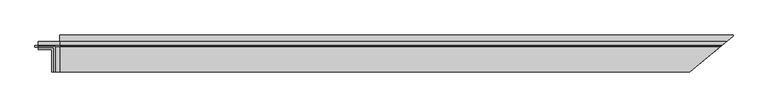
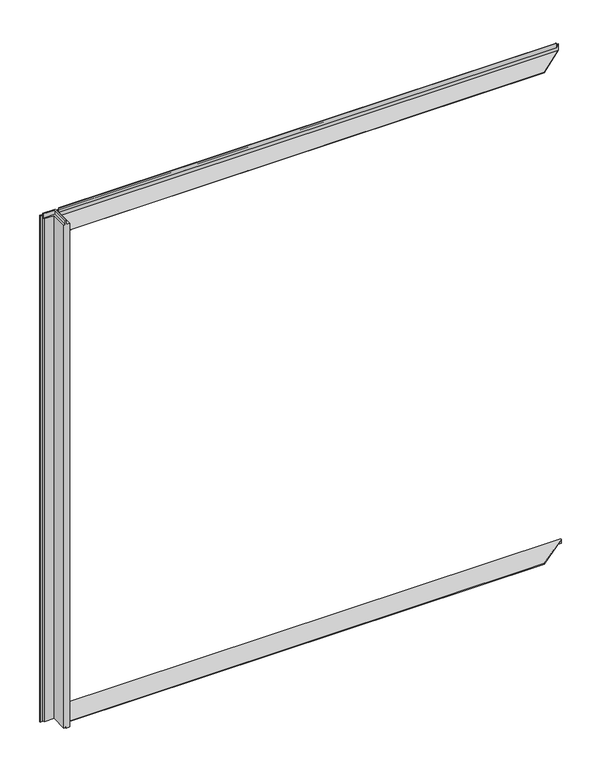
"""IFC4 building model written with IfcOpenShell, lengths in millimetres: plate geometry, Trimo_Qbiss Screen_Wall Opening Trims-HORIZONTAL : HR - B."""

from ifc_helpers import new_model, si_unit, frame, origin, origin_with_axes, place, context, project, spatial, polyline, outline, extrude, faceted_brep, source, transform, mapped, element, save


def plate_2372c1a4(model_context):
    return source(origin(), model_context, "Body", "SolidModel", [
        faceted_brep([(-1846.212234, 71.0, 4487.0), (-1846.212234, 100.0, 4487.0), (-1846.212234, 100.0, 0.0), (-1846.212234, 72.0, 0.0), (-1846.212234, 72.0, 15.5), (-1846.212234, 62.0, 15.5), (-1846.212234, 62.0, 7.0), (-1846.212234, 50.0, 7.0), (-1846.212234, 50.0, 4487.0), (-1846.212234, 63.0, 4487.0), (-1846.212234, 63.0, 4524.5), (-1846.212234, 71.0, 4524.5), (-1740.212234, 71.0, 4487.0), (-1740.212234, -92.0, 4487.0), (-1711.212234, -92.0, 4487.0), (-1711.212234, 100.0, 4487.0), (-1711.212234, 100.0, 0.0), (-1711.212234, -92.0, 0.0), (-1739.212234, -92.0, 0.0), (-1739.212234, 72.0, 0.0), (-1739.212234, 72.0, 15.5), (-1739.212234, -92.0, 15.5), (-1749.212234, -92.0, 15.5), (-1749.212234, 62.0, 15.5), (-1749.212234, 62.0, 7.0), (-1749.212234, -92.0, 7.0), (-1761.212234, -92.0, 7.0), (-1761.212234, 50.0, 7.0), (-1761.212234, 50.0, 4487.0), (-1761.212234, -92.0, 4487.0), (-1748.212234, -92.0, 4487.0), (-1748.212234, 63.0, 4487.0), (-1748.212234, 63.0, 4524.5), (-1748.212234, -92.0, 4524.5), (-1740.212234, -92.0, 4524.5), (-1740.212234, 71.0, 4524.5)], [[[0, 1, 2, 3, 4, 5, 6, 7, 8, 9, 10, 11]], [[1, 0, 12, 13, 14, 15]], [[2, 1, 15, 16]], [[3, 2, 16, 17, 18, 19]], [[4, 3, 19, 20]], [[5, 4, 20, 21, 22, 23]], [[6, 5, 23, 24]], [[7, 6, 24, 25, 26, 27]], [[8, 7, 27, 28]], [[9, 8, 28, 29, 30, 31]], [[10, 9, 31, 32]], [[11, 10, 32, 33, 34, 35]], [[0, 11, 35, 12]], [[13, 34, 33, 30, 29, 26, 25, 22, 21, 18, 17, 14]], [[16, 15, 14, 17]], [[20, 19, 18, 21]], [[24, 23, 22, 25]], [[28, 27, 26, 29]], [[32, 31, 30, 33]], [[12, 35, 34, 13]]]),
        extrude(outline(polyline([(-1849.212234, 76.5978162), (-1849.212234, 67.8978162), (-1868.212234, 67.8978162), (-1868.212234, 76.5978162), (-1849.212234, 76.5978162)])), origin_with_axes(), (0.0, 0.0, 1.0), 4510.0),
        faceted_brep([(-1709.212234, 71.0, 4487.0), (-1709.212234, 100.0, 4487.0), (-1709.212234, 100.0, 4429.0), (-1709.212234, -92.0, 4429.0), (-1709.212234, -92.0, 4430.0), (-1709.212234, 99.0, 4430.0), (-1709.212234, 99.0, 4486.0), (-1709.212234, 70.0, 4486.0), (-1709.212234, 70.0, 4524.5), (-1709.212234, 71.0, 4524.5), (2486.6513798, 71.0, 4524.5), (2486.6513798, 71.0, 4487.0), (2485.4596262, 70.0, 4524.5), (2485.4596262, 70.0, 4486.0), (2520.0204804, 99.0, 4486.0), (2520.0204804, 99.0, 4430.0), (2292.3955442, -92.0, 4430.0), (2292.3955442, -92.0, 4429.0), (2521.212234, 100.0, 4429.0), (2521.212234, 100.0, 4487.0)], [[[0, 1, 2, 3, 4, 5, 6, 7, 8, 9]], [[0, 9, 10, 11]], [[9, 8, 12, 10]], [[8, 7, 13, 12]], [[7, 6, 14, 13]], [[6, 5, 15, 14]], [[5, 4, 16, 15]], [[4, 3, 17, 16]], [[3, 2, 18, 17]], [[2, 1, 19, 18]], [[1, 0, 11, 19]], [[11, 10, 12, 13, 14, 15, 16, 17, 18, 19]]]),
        faceted_brep([(2566.212234, 138.0, 29.8042278), (2566.212234, 138.0, 0.0), (2566.212234, 145.0, 0.0), (2566.212234, 145.0, 36.234396), (2566.212234, 137.7594834, 36.8499233), (2566.212234, 137.7594834, 29.8246745), (-1709.212234, 138.0, 29.8042278), (-1709.212234, -92.0, 49.3568786), (-1709.212234, -92.0, 56.3821274), (-1709.212234, 145.0, 36.234396), (-1709.212234, 145.0, 0.0), (-1709.212234, 138.0, 0.0), (2292.3955442, -92.0, 56.3821274), (2292.3955442, -92.0, 49.3568786)], [[[0, 1, 2, 3, 4, 5]], [[6, 7, 8, 9, 10, 11]], [[1, 0, 6, 11]], [[2, 1, 11, 10]], [[3, 2, 10, 9]], [[9, 8, 12, 4, 3]], [[8, 7, 13, 12]], [[7, 6, 0, 5, 13]], [[5, 4, 12, 13]]]),
        extrude(outline(polyline([(-1846.212234, 71.0), (-1846.212234, 76.0), (2492.6101478, 76.0), (2486.6513798, 71.0), (-1846.212234, 71.0)])), frame((0.0, 0.0, 4488.0), z_axis=(0.0, 0.0, 1.0), x_axis=(1.0, 0.0, 0.0)), (0.0, 0.0, 1.0), 21.0),
    ])


if __name__ == "__main__":
    model = new_model("IFC4")
    model_context = context("Model", 3, world=origin())
    ifc_project = project(units=[si_unit("LENGTHUNIT", "METRE", prefix="MILLI")], contexts=[model_context])
    site = spatial("IfcSite", under=ifc_project)
    building = spatial("IfcBuilding", under=site)
    placement = place(None, origin())
    plate_shape = plate_2372c1a4(model_context)
    element("IfcPlate", 1, ObjectType="Trimo_Qbiss Screen_Wall Opening Trims-HORIZONTAL : HR - B", at=placement, inside=building, context=model_context, shape_type="MappedRepresentation", body=[
        mapped(plate_shape, transform((0.0, 0.0, 0.0), x_axis=(1.0, 0.0, 0.0), y_axis=(0.0, 1.0, 0.0), z_axis=(0.0, 0.0, 1.0))),
    ])
    save(model, "model.ifc")
